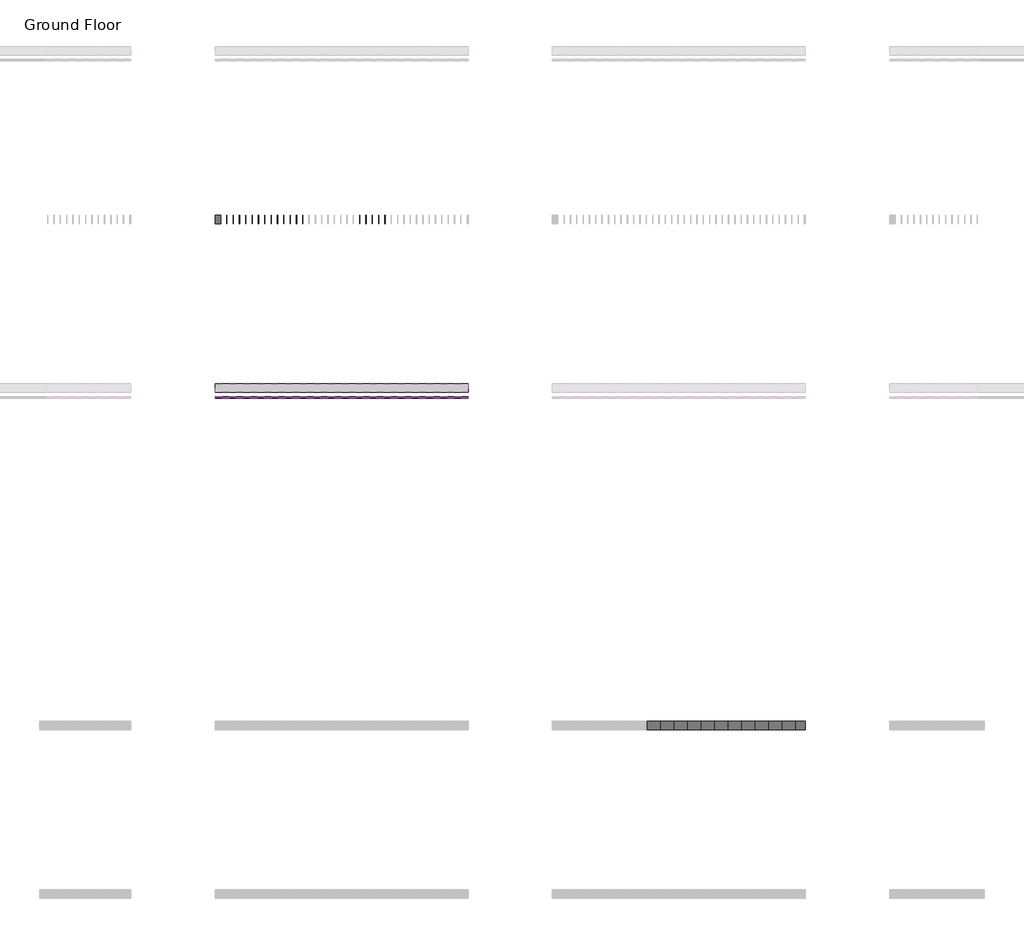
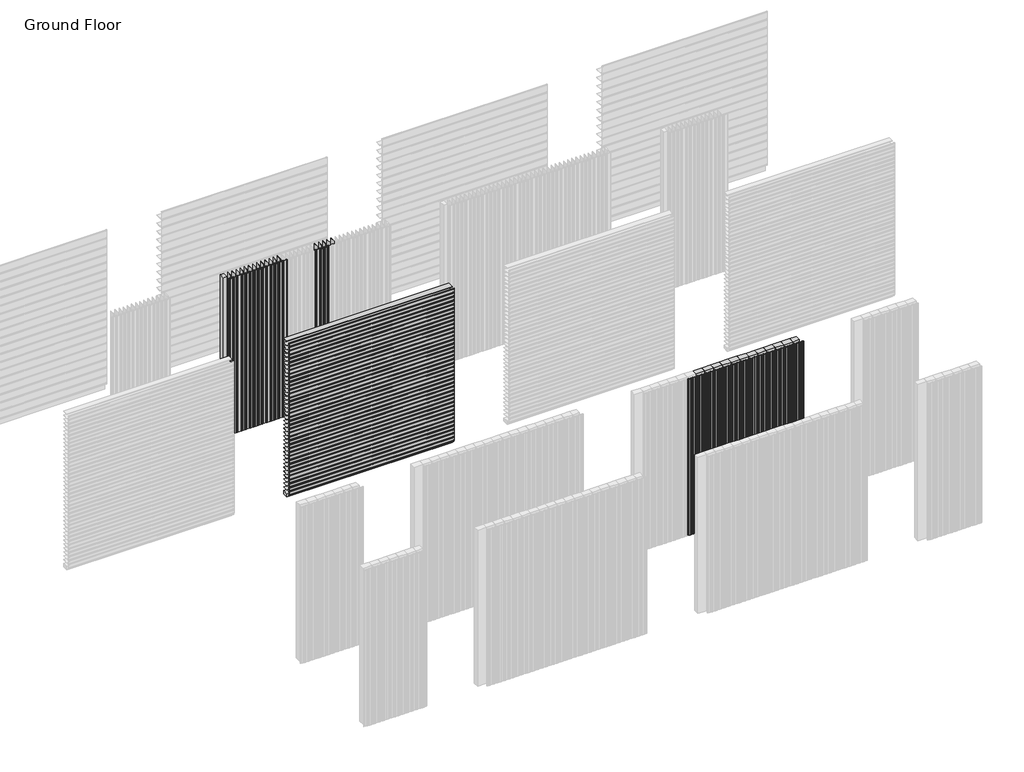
# One storey, part 32 of 350: 71 plates, 69 members.
"""IFC4 building model written with IfcOpenShell, lengths in millimetres."""

from ifc_helpers import new_model, si_unit, origin, place, context, project, spatial, transform, mapped, element, save
from components import rectangular_mullion_73ab8564, rectangular_mullion_894c3da7, empty_system_panel_empty_02c6fd44, empty_system_panel_empty_3b645525, empty_system_panel_empty_df7ddcff, empty_system_panel_empty_81cf2ed3, empty_system_panel_empty_a36746fc, empty_system_panel_empty_86793474, empty_system_panel_empty_27b459cb

model = new_model("IFC4")

# Units and contexts
model_context = context("Model", 3, world=origin())
ifc_project = project(units=[si_unit("LENGTHUNIT", "METRE", prefix="MILLI")], contexts=[model_context])

# Site, building, storey
site = spatial("IfcSite", under=ifc_project)
building = spatial("IfcBuilding", under=site)
storey = spatial("IfcBuildingStorey", under=building, Name="Ground Floor", Elevation=0.0)

# Members
placement = place(None, origin())
rectangular_mullion_shape = rectangular_mullion_73ab8564(model_context)
element("IfcMember", 1, ObjectType="Rectangular Mullion : Cladding_Aluminium_Modinex_AluSelekta_Castelation_ScreenClad_160Ultra_TasmanianOak", at=placement, inside=storey, context=model_context, shape_type="MappedRepresentation", body=[
    mapped(rectangular_mullion_shape, transform((45876.4361642, 8968.2978302, 0.0), x_axis=(1.0, 0.0, 0.0), y_axis=(0.0, -1.0, 0.0), z_axis=(0.0, 0.0, -1.0))),
])
element("IfcMember", 2, ObjectType="Rectangular Mullion : Cladding_Aluminium_Modinex_AluSelekta_Castelation_ScreenClad_160Ultra_TasmanianOak", at=placement, inside=storey, context=model_context, shape_type="MappedRepresentation", body=[
    mapped(rectangular_mullion_shape, transform((46036.4361642, 8968.2978302, 0.0), x_axis=(1.0, 0.0, 0.0), y_axis=(0.0, -1.0, 0.0), z_axis=(0.0, 0.0, -1.0))),
])
element("IfcMember", 3, ObjectType="Rectangular Mullion : Cladding_Aluminium_Modinex_AluSelekta_Castelation_ScreenClad_160Ultra_TasmanianOak", at=placement, inside=storey, context=model_context, shape_type="MappedRepresentation", body=[
    mapped(rectangular_mullion_shape, transform((46196.4361642, 8968.2978302, 0.0), x_axis=(1.0, 0.0, 0.0), y_axis=(0.0, -1.0, 0.0), z_axis=(0.0, 0.0, -1.0))),
])
element("IfcMember", 4, ObjectType="Rectangular Mullion : Cladding_Aluminium_Modinex_AluSelekta_Castelation_ScreenClad_160Ultra_TasmanianOak", at=placement, inside=storey, context=model_context, shape_type="MappedRepresentation", body=[
    mapped(rectangular_mullion_shape, transform((46356.4361642, 8968.2978302, 0.0), x_axis=(1.0, 0.0, 0.0), y_axis=(0.0, -1.0, 0.0), z_axis=(0.0, 0.0, -1.0))),
])
element("IfcMember", 5, ObjectType="Rectangular Mullion : Cladding_Aluminium_Modinex_AluSelekta_Castelation_ScreenClad_160Ultra_TasmanianOak", at=placement, inside=storey, context=model_context, shape_type="MappedRepresentation", body=[
    mapped(rectangular_mullion_shape, transform((46516.4361642, 8968.2978302, 0.0), x_axis=(1.0, 0.0, 0.0), y_axis=(0.0, -1.0, 0.0), z_axis=(0.0, 0.0, -1.0))),
])
element("IfcMember", 6, ObjectType="Rectangular Mullion : Cladding_Aluminium_Modinex_AluSelekta_Castelation_ScreenClad_160Ultra_TasmanianOak", at=placement, inside=storey, context=model_context, shape_type="MappedRepresentation", body=[
    mapped(rectangular_mullion_shape, transform((46676.4361642, 8968.2978302, 0.0), x_axis=(1.0, 0.0, 0.0), y_axis=(0.0, -1.0, 0.0), z_axis=(0.0, 0.0, -1.0))),
])
element("IfcMember", 7, ObjectType="Rectangular Mullion : Cladding_Aluminium_Modinex_AluSelekta_Castelation_ScreenClad_160Ultra_TasmanianOak", at=placement, inside=storey, context=model_context, shape_type="MappedRepresentation", body=[
    mapped(rectangular_mullion_shape, transform((46836.4361642, 8968.2978302, 0.0), x_axis=(1.0, 0.0, 0.0), y_axis=(0.0, -1.0, 0.0), z_axis=(0.0, 0.0, -1.0))),
])
element("IfcMember", 8, ObjectType="Rectangular Mullion : Cladding_Aluminium_Modinex_AluSelekta_Castelation_ScreenClad_160Ultra_TasmanianOak", at=placement, inside=storey, context=model_context, shape_type="MappedRepresentation", body=[
    mapped(rectangular_mullion_shape, transform((46996.4361642, 8968.2978302, 0.0), x_axis=(1.0, 0.0, 0.0), y_axis=(0.0, -1.0, 0.0), z_axis=(0.0, 0.0, -1.0))),
])
element("IfcMember", 9, ObjectType="Rectangular Mullion : Cladding_Aluminium_Modinex_AluSelekta_Castelation_ScreenClad_160Ultra_TasmanianOak", at=placement, inside=storey, context=model_context, shape_type="MappedRepresentation", body=[
    mapped(rectangular_mullion_shape, transform((47156.4361642, 8968.2978302, 0.0), x_axis=(1.0, 0.0, 0.0), y_axis=(0.0, -1.0, 0.0), z_axis=(0.0, 0.0, -1.0))),
])
element("IfcMember", 10, ObjectType="Rectangular Mullion : Cladding_Aluminium_Modinex_AluSelekta_Castelation_ScreenClad_160Ultra_TasmanianOak", at=placement, inside=storey, context=model_context, shape_type="MappedRepresentation", body=[
    mapped(rectangular_mullion_shape, transform((47316.4361642, 8968.2978302, 0.0), x_axis=(1.0, 0.0, 0.0), y_axis=(0.0, -1.0, 0.0), z_axis=(0.0, 0.0, -1.0))),
])
element("IfcMember", 11, ObjectType="Rectangular Mullion : Cladding_Aluminium_Modinex_AluSelekta_Castelation_ScreenClad_160Ultra_TasmanianOak", at=placement, inside=storey, context=model_context, shape_type="MappedRepresentation", body=[
    mapped(rectangular_mullion_shape, transform((47476.4361642, 8968.2978302, 0.0), x_axis=(1.0, 0.0, 0.0), y_axis=(0.0, -1.0, 0.0), z_axis=(0.0, 0.0, -1.0))),
])
element("IfcMember", 12, ObjectType="Rectangular Mullion : Cladding_Aluminium_Modinex_AluSelekta_Castelation_ScreenClad_160Ultra_TasmanianOak", at=placement, inside=storey, context=model_context, shape_type="MappedRepresentation", body=[
    mapped(rectangular_mullion_shape, transform((47636.4361642, 8968.2978302, 0.0), x_axis=(1.0, 0.0, 0.0), y_axis=(0.0, -1.0, 0.0), z_axis=(0.0, 0.0, -1.0))),
])
element("IfcMember", 13, ObjectType="Rectangular Mullion : Cladding_Aluminium_Modinex_AluSelekta_Castelation_ScreenClad_160Ultra_TasmanianOak", at=placement, inside=storey, context=model_context, shape_type="MappedRepresentation", body=[
    mapped(rectangular_mullion_shape, transform((47796.4361642, 8968.2978302, 0.0), x_axis=(1.0, 0.0, 0.0), y_axis=(0.0, -1.0, 0.0), z_axis=(0.0, 0.0, -1.0))),
])
rectangular_mullion_2_shape = rectangular_mullion_894c3da7(model_context)
element("IfcMember", 14, ObjectType="Rectangular Mullion : Cladding_Aluminium_Modinex_AluSelekta_Channel_75_SpottedGum", at=placement, inside=storey, context=model_context, shape_type="MappedRepresentation", body=[
    mapped(rectangular_mullion_2_shape, transform((43916.4361639, 12968.2978302, 75.0), x_axis=(0.0, 0.0, 1.0), y_axis=(0.0, -1.0, 0.0), z_axis=(1.0, 0.0, 0.0))),
])
element("IfcMember", 15, ObjectType="Rectangular Mullion : Cladding_Aluminium_Modinex_AluSelekta_Channel_75_SpottedGum", at=placement, inside=storey, context=model_context, shape_type="MappedRepresentation", body=[
    mapped(rectangular_mullion_2_shape, transform((43916.4361639, 12968.2978302, 150.0), x_axis=(0.0, 0.0, 1.0), y_axis=(0.0, -1.0, 0.0), z_axis=(1.0, 0.0, 0.0))),
])
element("IfcMember", 16, ObjectType="Rectangular Mullion : Cladding_Aluminium_Modinex_AluSelekta_Channel_75_SpottedGum", at=placement, inside=storey, context=model_context, shape_type="MappedRepresentation", body=[
    mapped(rectangular_mullion_2_shape, transform((43916.4361639, 12968.2978302, 225.0), x_axis=(0.0, 0.0, 1.0), y_axis=(0.0, -1.0, 0.0), z_axis=(1.0, 0.0, 0.0))),
])
element("IfcMember", 17, ObjectType="Rectangular Mullion : Cladding_Aluminium_Modinex_AluSelekta_Channel_75_SpottedGum", at=placement, inside=storey, context=model_context, shape_type="MappedRepresentation", body=[
    mapped(rectangular_mullion_2_shape, transform((43916.4361639, 12968.2978302, 300.0), x_axis=(0.0, 0.0, 1.0), y_axis=(0.0, -1.0, 0.0), z_axis=(1.0, 0.0, 0.0))),
])
element("IfcMember", 18, ObjectType="Rectangular Mullion : Cladding_Aluminium_Modinex_AluSelekta_Channel_75_SpottedGum", at=placement, inside=storey, context=model_context, shape_type="MappedRepresentation", body=[
    mapped(rectangular_mullion_2_shape, transform((43916.4361639, 12968.2978302, 375.0), x_axis=(0.0, 0.0, 1.0), y_axis=(0.0, -1.0, 0.0), z_axis=(1.0, 0.0, 0.0))),
])
element("IfcMember", 19, ObjectType="Rectangular Mullion : Cladding_Aluminium_Modinex_AluSelekta_Channel_75_SpottedGum", at=placement, inside=storey, context=model_context, shape_type="MappedRepresentation", body=[
    mapped(rectangular_mullion_2_shape, transform((43916.4361639, 12968.2978302, 450.0), x_axis=(0.0, 0.0, 1.0), y_axis=(0.0, -1.0, 0.0), z_axis=(1.0, 0.0, 0.0))),
])
element("IfcMember", 20, ObjectType="Rectangular Mullion : Cladding_Aluminium_Modinex_AluSelekta_Channel_75_SpottedGum", at=placement, inside=storey, context=model_context, shape_type="MappedRepresentation", body=[
    mapped(rectangular_mullion_2_shape, transform((43916.4361639, 12968.2978302, 525.0), x_axis=(0.0, 0.0, 1.0), y_axis=(0.0, -1.0, 0.0), z_axis=(1.0, 0.0, 0.0))),
])
element("IfcMember", 21, ObjectType="Rectangular Mullion : Cladding_Aluminium_Modinex_AluSelekta_Channel_75_SpottedGum", at=placement, inside=storey, context=model_context, shape_type="MappedRepresentation", body=[
    mapped(rectangular_mullion_2_shape, transform((43916.4361639, 12968.2978302, 600.0), x_axis=(0.0, 0.0, 1.0), y_axis=(0.0, -1.0, 0.0), z_axis=(1.0, 0.0, 0.0))),
])
element("IfcMember", 22, ObjectType="Rectangular Mullion : Cladding_Aluminium_Modinex_AluSelekta_Channel_75_SpottedGum", at=placement, inside=storey, context=model_context, shape_type="MappedRepresentation", body=[
    mapped(rectangular_mullion_2_shape, transform((43916.4361639, 12968.2978302, 675.0), x_axis=(0.0, 0.0, 1.0), y_axis=(0.0, -1.0, 0.0), z_axis=(1.0, 0.0, 0.0))),
])
element("IfcMember", 23, ObjectType="Rectangular Mullion : Cladding_Aluminium_Modinex_AluSelekta_Channel_75_SpottedGum", at=placement, inside=storey, context=model_context, shape_type="MappedRepresentation", body=[
    mapped(rectangular_mullion_2_shape, transform((43916.4361639, 12968.2978302, 750.0), x_axis=(0.0, 0.0, 1.0), y_axis=(0.0, -1.0, 0.0), z_axis=(1.0, 0.0, 0.0))),
])
element("IfcMember", 24, ObjectType="Rectangular Mullion : Cladding_Aluminium_Modinex_AluSelekta_Channel_75_SpottedGum", at=placement, inside=storey, context=model_context, shape_type="MappedRepresentation", body=[
    mapped(rectangular_mullion_2_shape, transform((43916.4361639, 12968.2978302, 825.0), x_axis=(0.0, 0.0, 1.0), y_axis=(0.0, -1.0, 0.0), z_axis=(1.0, 0.0, 0.0))),
])
element("IfcMember", 25, ObjectType="Rectangular Mullion : Cladding_Aluminium_Modinex_AluSelekta_Channel_75_SpottedGum", at=placement, inside=storey, context=model_context, shape_type="MappedRepresentation", body=[
    mapped(rectangular_mullion_2_shape, transform((43916.4361639, 12968.2978302, 900.0), x_axis=(0.0, 0.0, 1.0), y_axis=(0.0, -1.0, 0.0), z_axis=(1.0, 0.0, 0.0))),
])
element("IfcMember", 26, ObjectType="Rectangular Mullion : Cladding_Aluminium_Modinex_AluSelekta_Channel_75_SpottedGum", at=placement, inside=storey, context=model_context, shape_type="MappedRepresentation", body=[
    mapped(rectangular_mullion_2_shape, transform((43916.4361639, 12968.2978302, 975.0), x_axis=(0.0, 0.0, 1.0), y_axis=(0.0, -1.0, 0.0), z_axis=(1.0, 0.0, 0.0))),
])
element("IfcMember", 27, ObjectType="Rectangular Mullion : Cladding_Aluminium_Modinex_AluSelekta_Channel_75_SpottedGum", at=placement, inside=storey, context=model_context, shape_type="MappedRepresentation", body=[
    mapped(rectangular_mullion_2_shape, transform((43916.4361639, 12968.2978302, 1050.0), x_axis=(0.0, 0.0, 1.0), y_axis=(0.0, -1.0, 0.0), z_axis=(1.0, 0.0, 0.0))),
])
element("IfcMember", 28, ObjectType="Rectangular Mullion : Cladding_Aluminium_Modinex_AluSelekta_Channel_75_SpottedGum", at=placement, inside=storey, context=model_context, shape_type="MappedRepresentation", body=[
    mapped(rectangular_mullion_2_shape, transform((43916.4361639, 12968.2978302, 1125.0), x_axis=(0.0, 0.0, 1.0), y_axis=(0.0, -1.0, 0.0), z_axis=(1.0, 0.0, 0.0))),
])
element("IfcMember", 29, ObjectType="Rectangular Mullion : Cladding_Aluminium_Modinex_AluSelekta_Channel_75_SpottedGum", at=placement, inside=storey, context=model_context, shape_type="MappedRepresentation", body=[
    mapped(rectangular_mullion_2_shape, transform((43916.4361639, 12968.2978302, 1200.0), x_axis=(0.0, 0.0, 1.0), y_axis=(0.0, -1.0, 0.0), z_axis=(1.0, 0.0, 0.0))),
])
element("IfcMember", 30, ObjectType="Rectangular Mullion : Cladding_Aluminium_Modinex_AluSelekta_Channel_75_SpottedGum", at=placement, inside=storey, context=model_context, shape_type="MappedRepresentation", body=[
    mapped(rectangular_mullion_2_shape, transform((43916.4361639, 12968.2978302, 1275.0), x_axis=(0.0, 0.0, 1.0), y_axis=(0.0, -1.0, 0.0), z_axis=(1.0, 0.0, 0.0))),
])
element("IfcMember", 31, ObjectType="Rectangular Mullion : Cladding_Aluminium_Modinex_AluSelekta_Channel_75_SpottedGum", at=placement, inside=storey, context=model_context, shape_type="MappedRepresentation", body=[
    mapped(rectangular_mullion_2_shape, transform((43916.4361639, 12968.2978302, 1350.0), x_axis=(0.0, 0.0, 1.0), y_axis=(0.0, -1.0, 0.0), z_axis=(1.0, 0.0, 0.0))),
])
element("IfcMember", 32, ObjectType="Rectangular Mullion : Cladding_Aluminium_Modinex_AluSelekta_Channel_75_SpottedGum", at=placement, inside=storey, context=model_context, shape_type="MappedRepresentation", body=[
    mapped(rectangular_mullion_2_shape, transform((43916.4361639, 12968.2978302, 1425.0), x_axis=(0.0, 0.0, 1.0), y_axis=(0.0, -1.0, 0.0), z_axis=(1.0, 0.0, 0.0))),
])
element("IfcMember", 33, ObjectType="Rectangular Mullion : Cladding_Aluminium_Modinex_AluSelekta_Channel_75_SpottedGum", at=placement, inside=storey, context=model_context, shape_type="MappedRepresentation", body=[
    mapped(rectangular_mullion_2_shape, transform((43916.4361639, 12968.2978302, 1500.0), x_axis=(0.0, 0.0, 1.0), y_axis=(0.0, -1.0, 0.0), z_axis=(1.0, 0.0, 0.0))),
])
element("IfcMember", 34, ObjectType="Rectangular Mullion : Cladding_Aluminium_Modinex_AluSelekta_Channel_75_SpottedGum", at=placement, inside=storey, context=model_context, shape_type="MappedRepresentation", body=[
    mapped(rectangular_mullion_2_shape, transform((43916.4361639, 12968.2978302, 1575.0), x_axis=(0.0, 0.0, 1.0), y_axis=(0.0, -1.0, 0.0), z_axis=(1.0, 0.0, 0.0))),
])
element("IfcMember", 35, ObjectType="Rectangular Mullion : Cladding_Aluminium_Modinex_AluSelekta_Channel_75_SpottedGum", at=placement, inside=storey, context=model_context, shape_type="MappedRepresentation", body=[
    mapped(rectangular_mullion_2_shape, transform((43916.4361639, 12968.2978302, 1650.0), x_axis=(0.0, 0.0, 1.0), y_axis=(0.0, -1.0, 0.0), z_axis=(1.0, 0.0, 0.0))),
])
element("IfcMember", 36, ObjectType="Rectangular Mullion : Cladding_Aluminium_Modinex_AluSelekta_Channel_75_SpottedGum", at=placement, inside=storey, context=model_context, shape_type="MappedRepresentation", body=[
    mapped(rectangular_mullion_2_shape, transform((43916.4361639, 12968.2978302, 1725.0), x_axis=(0.0, 0.0, 1.0), y_axis=(0.0, -1.0, 0.0), z_axis=(1.0, 0.0, 0.0))),
])
element("IfcMember", 37, ObjectType="Rectangular Mullion : Cladding_Aluminium_Modinex_AluSelekta_Channel_75_SpottedGum", at=placement, inside=storey, context=model_context, shape_type="MappedRepresentation", body=[
    mapped(rectangular_mullion_2_shape, transform((43916.4361639, 12968.2978302, 1800.0), x_axis=(0.0, 0.0, 1.0), y_axis=(0.0, -1.0, 0.0), z_axis=(1.0, 0.0, 0.0))),
])
element("IfcMember", 38, ObjectType="Rectangular Mullion : Cladding_Aluminium_Modinex_AluSelekta_Channel_75_SpottedGum", at=placement, inside=storey, context=model_context, shape_type="MappedRepresentation", body=[
    mapped(rectangular_mullion_2_shape, transform((43916.4361639, 12968.2978302, 1875.0), x_axis=(0.0, 0.0, 1.0), y_axis=(0.0, -1.0, 0.0), z_axis=(1.0, 0.0, 0.0))),
])
element("IfcMember", 39, ObjectType="Rectangular Mullion : Cladding_Aluminium_Modinex_AluSelekta_Channel_75_SpottedGum", at=placement, inside=storey, context=model_context, shape_type="MappedRepresentation", body=[
    mapped(rectangular_mullion_2_shape, transform((43916.4361639, 12968.2978302, 1950.0), x_axis=(0.0, 0.0, 1.0), y_axis=(0.0, -1.0, 0.0), z_axis=(1.0, 0.0, 0.0))),
])
element("IfcMember", 40, ObjectType="Rectangular Mullion : Cladding_Aluminium_Modinex_AluSelekta_Channel_75_SpottedGum", at=placement, inside=storey, context=model_context, shape_type="MappedRepresentation", body=[
    mapped(rectangular_mullion_2_shape, transform((43916.4361639, 12968.2978302, 2025.0), x_axis=(0.0, 0.0, 1.0), y_axis=(0.0, -1.0, 0.0), z_axis=(1.0, 0.0, 0.0))),
])
element("IfcMember", 41, ObjectType="Rectangular Mullion : Cladding_Aluminium_Modinex_AluSelekta_Channel_75_SpottedGum", at=placement, inside=storey, context=model_context, shape_type="MappedRepresentation", body=[
    mapped(rectangular_mullion_2_shape, transform((43916.4361639, 12968.2978302, 2100.0), x_axis=(0.0, 0.0, 1.0), y_axis=(0.0, -1.0, 0.0), z_axis=(1.0, 0.0, 0.0))),
])
element("IfcMember", 42, ObjectType="Rectangular Mullion : Cladding_Aluminium_Modinex_AluSelekta_Channel_75_SpottedGum", at=placement, inside=storey, context=model_context, shape_type="MappedRepresentation", body=[
    mapped(rectangular_mullion_2_shape, transform((43916.4361639, 12968.2978302, 2175.0), x_axis=(0.0, 0.0, 1.0), y_axis=(0.0, -1.0, 0.0), z_axis=(1.0, 0.0, 0.0))),
])
element("IfcMember", 43, ObjectType="Rectangular Mullion : Cladding_Aluminium_Modinex_AluSelekta_Channel_75_SpottedGum", at=placement, inside=storey, context=model_context, shape_type="MappedRepresentation", body=[
    mapped(rectangular_mullion_2_shape, transform((43916.4361639, 12968.2978302, 2250.0), x_axis=(0.0, 0.0, 1.0), y_axis=(0.0, -1.0, 0.0), z_axis=(1.0, 0.0, 0.0))),
])
element("IfcMember", 44, ObjectType="Rectangular Mullion : Cladding_Aluminium_Modinex_AluSelekta_Channel_75_SpottedGum", at=placement, inside=storey, context=model_context, shape_type="MappedRepresentation", body=[
    mapped(rectangular_mullion_2_shape, transform((43916.4361639, 12968.2978302, 2325.0), x_axis=(0.0, 0.0, 1.0), y_axis=(0.0, -1.0, 0.0), z_axis=(1.0, 0.0, 0.0))),
])
element("IfcMember", 45, ObjectType="Rectangular Mullion : Cladding_Aluminium_Modinex_AluSelekta_Channel_75_SpottedGum", at=placement, inside=storey, context=model_context, shape_type="MappedRepresentation", body=[
    mapped(rectangular_mullion_2_shape, transform((43916.4361639, 12968.2978302, 2400.0), x_axis=(0.0, 0.0, 1.0), y_axis=(0.0, -1.0, 0.0), z_axis=(1.0, 0.0, 0.0))),
])
element("IfcMember", 46, ObjectType="Rectangular Mullion : Cladding_Aluminium_Modinex_AluSelekta_Channel_75_SpottedGum", at=placement, inside=storey, context=model_context, shape_type="MappedRepresentation", body=[
    mapped(rectangular_mullion_2_shape, transform((43916.4361639, 12968.2978302, 2475.0), x_axis=(0.0, 0.0, 1.0), y_axis=(0.0, -1.0, 0.0), z_axis=(1.0, 0.0, 0.0))),
])
element("IfcMember", 47, ObjectType="Rectangular Mullion : Cladding_Aluminium_Modinex_AluSelekta_Channel_75_SpottedGum", at=placement, inside=storey, context=model_context, shape_type="MappedRepresentation", body=[
    mapped(rectangular_mullion_2_shape, transform((43916.4361639, 12968.2978302, 2550.0), x_axis=(0.0, 0.0, 1.0), y_axis=(0.0, -1.0, 0.0), z_axis=(1.0, 0.0, 0.0))),
])
element("IfcMember", 48, ObjectType="Rectangular Mullion : Cladding_Aluminium_Modinex_AluSelekta_Channel_75_SpottedGum", at=placement, inside=storey, context=model_context, shape_type="MappedRepresentation", body=[
    mapped(rectangular_mullion_2_shape, transform((43916.4361639, 12968.2978302, 2625.0), x_axis=(0.0, 0.0, 1.0), y_axis=(0.0, -1.0, 0.0), z_axis=(1.0, 0.0, 0.0))),
])
element("IfcMember", 49, ObjectType="Rectangular Mullion : Cladding_Aluminium_Modinex_AluSelekta_Channel_75_SpottedGum", at=placement, inside=storey, context=model_context, shape_type="MappedRepresentation", body=[
    mapped(rectangular_mullion_2_shape, transform((43916.4361639, 12968.2978302, 2700.0), x_axis=(0.0, 0.0, 1.0), y_axis=(0.0, -1.0, 0.0), z_axis=(1.0, 0.0, 0.0))),
])
element("IfcMember", 50, ObjectType="Rectangular Mullion : Cladding_Aluminium_Modinex_AluSelekta_Channel_75_SpottedGum", at=placement, inside=storey, context=model_context, shape_type="MappedRepresentation", body=[
    mapped(rectangular_mullion_2_shape, transform((43916.4361639, 12968.2978302, 2775.0), x_axis=(0.0, 0.0, 1.0), y_axis=(0.0, -1.0, 0.0), z_axis=(1.0, 0.0, 0.0))),
])
element("IfcMember", 51, ObjectType="Rectangular Mullion : Cladding_Aluminium_Modinex_AluSelekta_Channel_75_SpottedGum", at=placement, inside=storey, context=model_context, shape_type="MappedRepresentation", body=[
    mapped(rectangular_mullion_2_shape, transform((43916.4361639, 12968.2978302, 2850.0), x_axis=(0.0, 0.0, 1.0), y_axis=(0.0, -1.0, 0.0), z_axis=(1.0, 0.0, 0.0))),
])
element("IfcMember", 52, ObjectType="Rectangular Mullion : Cladding_Aluminium_Modinex_AluSelekta_Channel_75_SpottedGum", at=placement, inside=storey, context=model_context, shape_type="MappedRepresentation", body=[
    mapped(rectangular_mullion_2_shape, transform((43916.4361639, 12968.2978302, 2925.0), x_axis=(0.0, 0.0, 1.0), y_axis=(0.0, -1.0, 0.0), z_axis=(1.0, 0.0, 0.0))),
])
element("IfcMember", 53, ObjectType="Rectangular Mullion : Cladding_Aluminium_Modinex_AluSelekta_Channel_75_SpottedGum", at=placement, inside=storey, context=model_context, shape_type="MappedRepresentation", body=[
    mapped(rectangular_mullion_2_shape, transform((42566.4361642, 14968.2978302, 0.0), x_axis=(1.0, 0.0, 0.0), y_axis=(0.0, -1.0, 0.0), z_axis=(0.0, 0.0, -1.0))),
])
element("IfcMember", 54, ObjectType="Rectangular Mullion : Cladding_Aluminium_Modinex_AluSelekta_Channel_75_SpottedGum", at=placement, inside=storey, context=model_context, shape_type="MappedRepresentation", body=[
    mapped(rectangular_mullion_2_shape, transform((42641.4361642, 14968.2978302, 0.0), x_axis=(1.0, 0.0, 0.0), y_axis=(0.0, -1.0, 0.0), z_axis=(0.0, 0.0, -1.0))),
])
element("IfcMember", 55, ObjectType="Rectangular Mullion : Cladding_Aluminium_Modinex_AluSelekta_Channel_75_SpottedGum", at=placement, inside=storey, context=model_context, shape_type="MappedRepresentation", body=[
    mapped(rectangular_mullion_2_shape, transform((42716.4361642, 14968.2978302, 0.0), x_axis=(1.0, 0.0, 0.0), y_axis=(0.0, -1.0, 0.0), z_axis=(0.0, 0.0, -1.0))),
])
element("IfcMember", 56, ObjectType="Rectangular Mullion : Cladding_Aluminium_Modinex_AluSelekta_Channel_75_SpottedGum", at=placement, inside=storey, context=model_context, shape_type="MappedRepresentation", body=[
    mapped(rectangular_mullion_2_shape, transform((41966.4361642, 14968.2978302, 0.0), x_axis=(1.0, 0.0, 0.0), y_axis=(0.0, -1.0, 0.0), z_axis=(0.0, 0.0, -1.0))),
])
element("IfcMember", 57, ObjectType="Rectangular Mullion : Cladding_Aluminium_Modinex_AluSelekta_Channel_75_SpottedGum", at=placement, inside=storey, context=model_context, shape_type="MappedRepresentation", body=[
    mapped(rectangular_mullion_2_shape, transform((41891.4361642, 14968.2978302, 0.0), x_axis=(1.0, 0.0, 0.0), y_axis=(0.0, -1.0, 0.0), z_axis=(0.0, 0.0, -1.0))),
])
element("IfcMember", 58, ObjectType="Rectangular Mullion : Cladding_Aluminium_Modinex_AluSelekta_Channel_75_SpottedGum", at=placement, inside=storey, context=model_context, shape_type="MappedRepresentation", body=[
    mapped(rectangular_mullion_2_shape, transform((41816.4361642, 14968.2978302, 0.0), x_axis=(1.0, 0.0, 0.0), y_axis=(0.0, -1.0, 0.0), z_axis=(0.0, 0.0, -1.0))),
])
element("IfcMember", 59, ObjectType="Rectangular Mullion : Cladding_Aluminium_Modinex_AluSelekta_Channel_75_SpottedGum", at=placement, inside=storey, context=model_context, shape_type="MappedRepresentation", body=[
    mapped(rectangular_mullion_2_shape, transform((41741.4361642, 14968.2978302, 0.0), x_axis=(1.0, 0.0, 0.0), y_axis=(0.0, -1.0, 0.0), z_axis=(0.0, 0.0, -1.0))),
])
element("IfcMember", 60, ObjectType="Rectangular Mullion : Cladding_Aluminium_Modinex_AluSelekta_Channel_75_SpottedGum", at=placement, inside=storey, context=model_context, shape_type="MappedRepresentation", body=[
    mapped(rectangular_mullion_2_shape, transform((41666.4361642, 14968.2978302, 0.0), x_axis=(1.0, 0.0, 0.0), y_axis=(0.0, -1.0, 0.0), z_axis=(0.0, 0.0, -1.0))),
])
element("IfcMember", 61, ObjectType="Rectangular Mullion : Cladding_Aluminium_Modinex_AluSelekta_Channel_75_SpottedGum", at=placement, inside=storey, context=model_context, shape_type="MappedRepresentation", body=[
    mapped(rectangular_mullion_2_shape, transform((41591.4361642, 14968.2978302, 0.0), x_axis=(1.0, 0.0, 0.0), y_axis=(0.0, -1.0, 0.0), z_axis=(0.0, 0.0, -1.0))),
])
element("IfcMember", 62, ObjectType="Rectangular Mullion : Cladding_Aluminium_Modinex_AluSelekta_Channel_75_SpottedGum", at=placement, inside=storey, context=model_context, shape_type="MappedRepresentation", body=[
    mapped(rectangular_mullion_2_shape, transform((41516.4361642, 14968.2978302, 0.0), x_axis=(1.0, 0.0, 0.0), y_axis=(0.0, -1.0, 0.0), z_axis=(0.0, 0.0, -1.0))),
])
element("IfcMember", 63, ObjectType="Rectangular Mullion : Cladding_Aluminium_Modinex_AluSelekta_Channel_75_SpottedGum", at=placement, inside=storey, context=model_context, shape_type="MappedRepresentation", body=[
    mapped(rectangular_mullion_2_shape, transform((41441.4361642, 14968.2978302, 0.0), x_axis=(1.0, 0.0, 0.0), y_axis=(0.0, -1.0, 0.0), z_axis=(0.0, 0.0, -1.0))),
])
element("IfcMember", 64, ObjectType="Rectangular Mullion : Cladding_Aluminium_Modinex_AluSelekta_Channel_75_SpottedGum", at=placement, inside=storey, context=model_context, shape_type="MappedRepresentation", body=[
    mapped(rectangular_mullion_2_shape, transform((41366.4361642, 14968.2978302, 0.0), x_axis=(1.0, 0.0, 0.0), y_axis=(0.0, -1.0, 0.0), z_axis=(0.0, 0.0, -1.0))),
])
element("IfcMember", 65, ObjectType="Rectangular Mullion : Cladding_Aluminium_Modinex_AluSelekta_Channel_75_SpottedGum", at=placement, inside=storey, context=model_context, shape_type="MappedRepresentation", body=[
    mapped(rectangular_mullion_2_shape, transform((41291.4361642, 14968.2978302, 0.0), x_axis=(1.0, 0.0, 0.0), y_axis=(0.0, -1.0, 0.0), z_axis=(0.0, 0.0, -1.0))),
])
element("IfcMember", 66, ObjectType="Rectangular Mullion : Cladding_Aluminium_Modinex_AluSelekta_Channel_75_SpottedGum", at=placement, inside=storey, context=model_context, shape_type="MappedRepresentation", body=[
    mapped(rectangular_mullion_2_shape, transform((41216.4361642, 14968.2978302, 0.0), x_axis=(1.0, 0.0, 0.0), y_axis=(0.0, -1.0, 0.0), z_axis=(0.0, 0.0, -1.0))),
])
element("IfcMember", 67, ObjectType="Rectangular Mullion : Cladding_Aluminium_Modinex_AluSelekta_Channel_75_SpottedGum", at=placement, inside=storey, context=model_context, shape_type="MappedRepresentation", body=[
    mapped(rectangular_mullion_2_shape, transform((41141.4361642, 14968.2978302, 0.0), x_axis=(1.0, 0.0, 0.0), y_axis=(0.0, -1.0, 0.0), z_axis=(0.0, 0.0, -1.0))),
])
element("IfcMember", 68, ObjectType="Rectangular Mullion : Cladding_Aluminium_Modinex_AluSelekta_Channel_75_SpottedGum", at=placement, inside=storey, context=model_context, shape_type="MappedRepresentation", body=[
    mapped(rectangular_mullion_2_shape, transform((41066.4361642, 14968.2978302, 0.0), x_axis=(1.0, 0.0, 0.0), y_axis=(0.0, -1.0, 0.0), z_axis=(0.0, 0.0, -1.0))),
])
element("IfcMember", 69, ObjectType="Rectangular Mullion : Cladding_Aluminium_Modinex_AluSelekta_Channel_75_SpottedGum", at=placement, inside=storey, context=model_context, shape_type="MappedRepresentation", body=[
    mapped(rectangular_mullion_2_shape, transform((40991.4361642, 14968.2978302, 0.0), x_axis=(1.0, 0.0, 0.0), y_axis=(0.0, -1.0, 0.0), z_axis=(0.0, 0.0, -1.0))),
])

# Plates
empty_system_panel_empty_shape = empty_system_panel_empty_02c6fd44(model_context)
element("IfcPlate", 70, ObjectType="Empty System Panel : Empty", at=placement, inside=storey, context=model_context, shape_type="MappedRepresentation", body=[
    mapped(empty_system_panel_empty_shape, transform((42416.4361639, 12968.2978302, 137.2580963), x_axis=(1.0, 0.0, 0.0), y_axis=(0.0, 1.0, 0.0), z_axis=(0.0, 0.0, 1.0))),
])
element("IfcPlate", 71, ObjectType="Empty System Panel : Empty", at=placement, inside=storey, context=model_context, shape_type="MappedRepresentation", body=[
    mapped(empty_system_panel_empty_shape, transform((42416.4361639, 12968.2978302, 212.2580963), x_axis=(1.0, 0.0, 0.0), y_axis=(0.0, 1.0, 0.0), z_axis=(0.0, 0.0, 1.0))),
])
element("IfcPlate", 72, ObjectType="Empty System Panel : Empty", at=placement, inside=storey, context=model_context, shape_type="MappedRepresentation", body=[
    mapped(empty_system_panel_empty_shape, transform((42416.4361639, 12968.2978302, 287.2580963), x_axis=(1.0, 0.0, 0.0), y_axis=(0.0, 1.0, 0.0), z_axis=(0.0, 0.0, 1.0))),
])
element("IfcPlate", 73, ObjectType="Empty System Panel : Empty", at=placement, inside=storey, context=model_context, shape_type="MappedRepresentation", body=[
    mapped(empty_system_panel_empty_shape, transform((42416.4361639, 12968.2978302, 362.2580963), x_axis=(1.0, 0.0, 0.0), y_axis=(0.0, 1.0, 0.0), z_axis=(0.0, 0.0, 1.0))),
])
element("IfcPlate", 74, ObjectType="Empty System Panel : Empty", at=placement, inside=storey, context=model_context, shape_type="MappedRepresentation", body=[
    mapped(empty_system_panel_empty_shape, transform((42416.4361639, 12968.2978302, 437.2580963), x_axis=(1.0, 0.0, 0.0), y_axis=(0.0, 1.0, 0.0), z_axis=(0.0, 0.0, 1.0))),
])
element("IfcPlate", 75, ObjectType="Empty System Panel : Empty", at=placement, inside=storey, context=model_context, shape_type="MappedRepresentation", body=[
    mapped(empty_system_panel_empty_shape, transform((42416.4361639, 12968.2978302, 512.2580963), x_axis=(1.0, 0.0, 0.0), y_axis=(0.0, 1.0, 0.0), z_axis=(0.0, 0.0, 1.0))),
])
element("IfcPlate", 76, ObjectType="Empty System Panel : Empty", at=placement, inside=storey, context=model_context, shape_type="MappedRepresentation", body=[
    mapped(empty_system_panel_empty_shape, transform((42416.4361639, 12968.2978302, 587.2580963), x_axis=(1.0, 0.0, 0.0), y_axis=(0.0, 1.0, 0.0), z_axis=(0.0, 0.0, 1.0))),
])
element("IfcPlate", 77, ObjectType="Empty System Panel : Empty", at=placement, inside=storey, context=model_context, shape_type="MappedRepresentation", body=[
    mapped(empty_system_panel_empty_shape, transform((42416.4361639, 12968.2978302, 662.2580963), x_axis=(1.0, 0.0, 0.0), y_axis=(0.0, 1.0, 0.0), z_axis=(0.0, 0.0, 1.0))),
])
element("IfcPlate", 78, ObjectType="Empty System Panel : Empty", at=placement, inside=storey, context=model_context, shape_type="MappedRepresentation", body=[
    mapped(empty_system_panel_empty_shape, transform((42416.4361639, 12968.2978302, 737.2580963), x_axis=(1.0, 0.0, 0.0), y_axis=(0.0, 1.0, 0.0), z_axis=(0.0, 0.0, 1.0))),
])
element("IfcPlate", 79, ObjectType="Empty System Panel : Empty", at=placement, inside=storey, context=model_context, shape_type="MappedRepresentation", body=[
    mapped(empty_system_panel_empty_shape, transform((42416.4361639, 12968.2978302, 812.2580963), x_axis=(1.0, 0.0, 0.0), y_axis=(0.0, 1.0, 0.0), z_axis=(0.0, 0.0, 1.0))),
])
element("IfcPlate", 80, ObjectType="Empty System Panel : Empty", at=placement, inside=storey, context=model_context, shape_type="MappedRepresentation", body=[
    mapped(empty_system_panel_empty_shape, transform((42416.4361639, 12968.2978302, 887.2580963), x_axis=(1.0, 0.0, 0.0), y_axis=(0.0, 1.0, 0.0), z_axis=(0.0, 0.0, 1.0))),
])
element("IfcPlate", 81, ObjectType="Empty System Panel : Empty", at=placement, inside=storey, context=model_context, shape_type="MappedRepresentation", body=[
    mapped(empty_system_panel_empty_shape, transform((42416.4361639, 12968.2978302, 962.2580963), x_axis=(1.0, 0.0, 0.0), y_axis=(0.0, 1.0, 0.0), z_axis=(0.0, 0.0, 1.0))),
])
element("IfcPlate", 82, ObjectType="Empty System Panel : Empty", at=placement, inside=storey, context=model_context, shape_type="MappedRepresentation", body=[
    mapped(empty_system_panel_empty_shape, transform((42416.4361639, 12968.2978302, 1037.2580963), x_axis=(1.0, 0.0, 0.0), y_axis=(0.0, 1.0, 0.0), z_axis=(0.0, 0.0, 1.0))),
])
element("IfcPlate", 83, ObjectType="Empty System Panel : Empty", at=placement, inside=storey, context=model_context, shape_type="MappedRepresentation", body=[
    mapped(empty_system_panel_empty_shape, transform((42416.4361639, 12968.2978302, 1112.2580963), x_axis=(1.0, 0.0, 0.0), y_axis=(0.0, 1.0, 0.0), z_axis=(0.0, 0.0, 1.0))),
])
element("IfcPlate", 84, ObjectType="Empty System Panel : Empty", at=placement, inside=storey, context=model_context, shape_type="MappedRepresentation", body=[
    mapped(empty_system_panel_empty_shape, transform((42416.4361639, 12968.2978302, 1187.2580963), x_axis=(1.0, 0.0, 0.0), y_axis=(0.0, 1.0, 0.0), z_axis=(0.0, 0.0, 1.0))),
])
element("IfcPlate", 85, ObjectType="Empty System Panel : Empty", at=placement, inside=storey, context=model_context, shape_type="MappedRepresentation", body=[
    mapped(empty_system_panel_empty_shape, transform((42416.4361639, 12968.2978302, 1262.2580963), x_axis=(1.0, 0.0, 0.0), y_axis=(0.0, 1.0, 0.0), z_axis=(0.0, 0.0, 1.0))),
])
element("IfcPlate", 86, ObjectType="Empty System Panel : Empty", at=placement, inside=storey, context=model_context, shape_type="MappedRepresentation", body=[
    mapped(empty_system_panel_empty_shape, transform((42416.4361639, 12968.2978302, 1337.2580963), x_axis=(1.0, 0.0, 0.0), y_axis=(0.0, 1.0, 0.0), z_axis=(0.0, 0.0, 1.0))),
])
element("IfcPlate", 87, ObjectType="Empty System Panel : Empty", at=placement, inside=storey, context=model_context, shape_type="MappedRepresentation", body=[
    mapped(empty_system_panel_empty_shape, transform((42416.4361639, 12968.2978302, 1412.2580963), x_axis=(1.0, 0.0, 0.0), y_axis=(0.0, 1.0, 0.0), z_axis=(0.0, 0.0, 1.0))),
])
element("IfcPlate", 88, ObjectType="Empty System Panel : Empty", at=placement, inside=storey, context=model_context, shape_type="MappedRepresentation", body=[
    mapped(empty_system_panel_empty_shape, transform((42416.4361639, 12968.2978302, 1487.2580963), x_axis=(1.0, 0.0, 0.0), y_axis=(0.0, 1.0, 0.0), z_axis=(0.0, 0.0, 1.0))),
])
element("IfcPlate", 89, ObjectType="Empty System Panel : Empty", at=placement, inside=storey, context=model_context, shape_type="MappedRepresentation", body=[
    mapped(empty_system_panel_empty_shape, transform((42416.4361639, 12968.2978302, 1562.2580963), x_axis=(1.0, 0.0, 0.0), y_axis=(0.0, 1.0, 0.0), z_axis=(0.0, 0.0, 1.0))),
])
element("IfcPlate", 90, ObjectType="Empty System Panel : Empty", at=placement, inside=storey, context=model_context, shape_type="MappedRepresentation", body=[
    mapped(empty_system_panel_empty_shape, transform((42416.4361639, 12968.2978302, 1637.2580963), x_axis=(1.0, 0.0, 0.0), y_axis=(0.0, 1.0, 0.0), z_axis=(0.0, 0.0, 1.0))),
])
element("IfcPlate", 91, ObjectType="Empty System Panel : Empty", at=placement, inside=storey, context=model_context, shape_type="MappedRepresentation", body=[
    mapped(empty_system_panel_empty_shape, transform((42416.4361639, 12968.2978302, 1712.2580963), x_axis=(1.0, 0.0, 0.0), y_axis=(0.0, 1.0, 0.0), z_axis=(0.0, 0.0, 1.0))),
])
element("IfcPlate", 92, ObjectType="Empty System Panel : Empty", at=placement, inside=storey, context=model_context, shape_type="MappedRepresentation", body=[
    mapped(empty_system_panel_empty_shape, transform((42416.4361639, 12968.2978302, 1787.2580963), x_axis=(1.0, 0.0, 0.0), y_axis=(0.0, 1.0, 0.0), z_axis=(0.0, 0.0, 1.0))),
])
element("IfcPlate", 93, ObjectType="Empty System Panel : Empty", at=placement, inside=storey, context=model_context, shape_type="MappedRepresentation", body=[
    mapped(empty_system_panel_empty_shape, transform((42416.4361639, 12968.2978302, 1862.2580963), x_axis=(1.0, 0.0, 0.0), y_axis=(0.0, 1.0, 0.0), z_axis=(0.0, 0.0, 1.0))),
])
element("IfcPlate", 94, ObjectType="Empty System Panel : Empty", at=placement, inside=storey, context=model_context, shape_type="MappedRepresentation", body=[
    mapped(empty_system_panel_empty_shape, transform((42416.4361639, 12968.2978302, 1937.2580963), x_axis=(1.0, 0.0, 0.0), y_axis=(0.0, 1.0, 0.0), z_axis=(0.0, 0.0, 1.0))),
])
element("IfcPlate", 95, ObjectType="Empty System Panel : Empty", at=placement, inside=storey, context=model_context, shape_type="MappedRepresentation", body=[
    mapped(empty_system_panel_empty_shape, transform((42416.4361639, 12968.2978302, 2012.2580963), x_axis=(1.0, 0.0, 0.0), y_axis=(0.0, 1.0, 0.0), z_axis=(0.0, 0.0, 1.0))),
])
element("IfcPlate", 96, ObjectType="Empty System Panel : Empty", at=placement, inside=storey, context=model_context, shape_type="MappedRepresentation", body=[
    mapped(empty_system_panel_empty_shape, transform((42416.4361639, 12968.2978302, 2087.2580963), x_axis=(1.0, 0.0, 0.0), y_axis=(0.0, 1.0, 0.0), z_axis=(0.0, 0.0, 1.0))),
])
element("IfcPlate", 97, ObjectType="Empty System Panel : Empty", at=placement, inside=storey, context=model_context, shape_type="MappedRepresentation", body=[
    mapped(empty_system_panel_empty_shape, transform((42416.4361639, 12968.2978302, 2162.2580963), x_axis=(1.0, 0.0, 0.0), y_axis=(0.0, 1.0, 0.0), z_axis=(0.0, 0.0, 1.0))),
])
element("IfcPlate", 98, ObjectType="Empty System Panel : Empty", at=placement, inside=storey, context=model_context, shape_type="MappedRepresentation", body=[
    mapped(empty_system_panel_empty_shape, transform((42416.4361639, 12968.2978302, 2237.2580963), x_axis=(1.0, 0.0, 0.0), y_axis=(0.0, 1.0, 0.0), z_axis=(0.0, 0.0, 1.0))),
])
element("IfcPlate", 99, ObjectType="Empty System Panel : Empty", at=placement, inside=storey, context=model_context, shape_type="MappedRepresentation", body=[
    mapped(empty_system_panel_empty_shape, transform((42416.4361639, 12968.2978302, 2312.2580963), x_axis=(1.0, 0.0, 0.0), y_axis=(0.0, 1.0, 0.0), z_axis=(0.0, 0.0, 1.0))),
])
element("IfcPlate", 100, ObjectType="Empty System Panel : Empty", at=placement, inside=storey, context=model_context, shape_type="MappedRepresentation", body=[
    mapped(empty_system_panel_empty_shape, transform((42416.4361639, 12968.2978302, 2387.2580963), x_axis=(1.0, 0.0, 0.0), y_axis=(0.0, 1.0, 0.0), z_axis=(0.0, 0.0, 1.0))),
])
element("IfcPlate", 101, ObjectType="Empty System Panel : Empty", at=placement, inside=storey, context=model_context, shape_type="MappedRepresentation", body=[
    mapped(empty_system_panel_empty_shape, transform((42416.4361639, 12968.2978302, 2462.2580963), x_axis=(1.0, 0.0, 0.0), y_axis=(0.0, 1.0, 0.0), z_axis=(0.0, 0.0, 1.0))),
])
element("IfcPlate", 102, ObjectType="Empty System Panel : Empty", at=placement, inside=storey, context=model_context, shape_type="MappedRepresentation", body=[
    mapped(empty_system_panel_empty_shape, transform((42416.4361639, 12968.2978302, 2537.2580963), x_axis=(1.0, 0.0, 0.0), y_axis=(0.0, 1.0, 0.0), z_axis=(0.0, 0.0, 1.0))),
])
element("IfcPlate", 103, ObjectType="Empty System Panel : Empty", at=placement, inside=storey, context=model_context, shape_type="MappedRepresentation", body=[
    mapped(empty_system_panel_empty_shape, transform((42416.4361639, 12968.2978302, 2612.2580963), x_axis=(1.0, 0.0, 0.0), y_axis=(0.0, 1.0, 0.0), z_axis=(0.0, 0.0, 1.0))),
])
element("IfcPlate", 104, ObjectType="Empty System Panel : Empty", at=placement, inside=storey, context=model_context, shape_type="MappedRepresentation", body=[
    mapped(empty_system_panel_empty_shape, transform((42416.4361639, 12968.2978302, 2687.2580963), x_axis=(1.0, 0.0, 0.0), y_axis=(0.0, 1.0, 0.0), z_axis=(0.0, 0.0, 1.0))),
])
element("IfcPlate", 105, ObjectType="Empty System Panel : Empty", at=placement, inside=storey, context=model_context, shape_type="MappedRepresentation", body=[
    mapped(empty_system_panel_empty_shape, transform((42416.4361639, 12968.2978302, 2762.2580963), x_axis=(1.0, 0.0, 0.0), y_axis=(0.0, 1.0, 0.0), z_axis=(0.0, 0.0, 1.0))),
])
element("IfcPlate", 106, ObjectType="Empty System Panel : Empty", at=placement, inside=storey, context=model_context, shape_type="MappedRepresentation", body=[
    mapped(empty_system_panel_empty_shape, transform((42416.4361639, 12968.2978302, 2837.2580963), x_axis=(1.0, 0.0, 0.0), y_axis=(0.0, 1.0, 0.0), z_axis=(0.0, 0.0, 1.0))),
])
element("IfcPlate", 107, ObjectType="Empty System Panel : Empty", at=placement, inside=storey, context=model_context, shape_type="MappedRepresentation", body=[
    mapped(empty_system_panel_empty_shape, transform((42416.4361639, 12968.2978302, 2912.2580963), x_axis=(1.0, 0.0, 0.0), y_axis=(0.0, 1.0, 0.0), z_axis=(0.0, 0.0, 1.0))),
])
empty_system_panel_empty_2_shape = empty_system_panel_empty_3b645525(model_context)
element("IfcPlate", 108, ObjectType="Empty System Panel : Empty", at=placement, inside=storey, context=model_context, shape_type="MappedRepresentation", body=[
    mapped(empty_system_panel_empty_2_shape, transform((46116.4361642, 8968.2978302, 0.0), x_axis=(1.0, 0.0, 0.0), y_axis=(0.0, 1.0, 0.0), z_axis=(0.0, 0.0, 1.0))),
])
element("IfcPlate", 109, ObjectType="Empty System Panel : Empty", at=placement, inside=storey, context=model_context, shape_type="MappedRepresentation", body=[
    mapped(empty_system_panel_empty_2_shape, transform((46276.4361642, 8968.2978302, 0.0), x_axis=(1.0, 0.0, 0.0), y_axis=(0.0, 1.0, 0.0), z_axis=(0.0, 0.0, 1.0))),
])
element("IfcPlate", 110, ObjectType="Empty System Panel : Empty", at=placement, inside=storey, context=model_context, shape_type="MappedRepresentation", body=[
    mapped(empty_system_panel_empty_2_shape, transform((46436.4361642, 8968.2978302, 0.0), x_axis=(1.0, 0.0, 0.0), y_axis=(0.0, 1.0, 0.0), z_axis=(0.0, 0.0, 1.0))),
])
element("IfcPlate", 111, ObjectType="Empty System Panel : Empty", at=placement, inside=storey, context=model_context, shape_type="MappedRepresentation", body=[
    mapped(empty_system_panel_empty_2_shape, transform((46596.4361642, 8968.2978302, 0.0), x_axis=(1.0, 0.0, 0.0), y_axis=(0.0, 1.0, 0.0), z_axis=(0.0, 0.0, 1.0))),
])
element("IfcPlate", 112, ObjectType="Empty System Panel : Empty", at=placement, inside=storey, context=model_context, shape_type="MappedRepresentation", body=[
    mapped(empty_system_panel_empty_2_shape, transform((46756.4361642, 8968.2978302, 0.0), x_axis=(1.0, 0.0, 0.0), y_axis=(0.0, 1.0, 0.0), z_axis=(0.0, 0.0, 1.0))),
])
element("IfcPlate", 113, ObjectType="Empty System Panel : Empty", at=placement, inside=storey, context=model_context, shape_type="MappedRepresentation", body=[
    mapped(empty_system_panel_empty_2_shape, transform((46916.4361642, 8968.2978302, 0.0), x_axis=(1.0, 0.0, 0.0), y_axis=(0.0, 1.0, 0.0), z_axis=(0.0, 0.0, 1.0))),
])
element("IfcPlate", 114, ObjectType="Empty System Panel : Empty", at=placement, inside=storey, context=model_context, shape_type="MappedRepresentation", body=[
    mapped(empty_system_panel_empty_2_shape, transform((47076.4361642, 8968.2978302, 0.0), x_axis=(1.0, 0.0, 0.0), y_axis=(0.0, 1.0, 0.0), z_axis=(0.0, 0.0, 1.0))),
])
element("IfcPlate", 115, ObjectType="Empty System Panel : Empty", at=placement, inside=storey, context=model_context, shape_type="MappedRepresentation", body=[
    mapped(empty_system_panel_empty_2_shape, transform((47236.4361642, 8968.2978302, 0.0), x_axis=(1.0, 0.0, 0.0), y_axis=(0.0, 1.0, 0.0), z_axis=(0.0, 0.0, 1.0))),
])
element("IfcPlate", 116, ObjectType="Empty System Panel : Empty", at=placement, inside=storey, context=model_context, shape_type="MappedRepresentation", body=[
    mapped(empty_system_panel_empty_2_shape, transform((47396.4361642, 8968.2978302, 0.0), x_axis=(1.0, 0.0, 0.0), y_axis=(0.0, 1.0, 0.0), z_axis=(0.0, 0.0, 1.0))),
])
element("IfcPlate", 117, ObjectType="Empty System Panel : Empty", at=placement, inside=storey, context=model_context, shape_type="MappedRepresentation", body=[
    mapped(empty_system_panel_empty_2_shape, transform((47556.4361642, 8968.2978302, 0.0), x_axis=(1.0, 0.0, 0.0), y_axis=(0.0, 1.0, 0.0), z_axis=(0.0, 0.0, 1.0))),
])
element("IfcPlate", 118, ObjectType="Empty System Panel : Empty", at=placement, inside=storey, context=model_context, shape_type="MappedRepresentation", body=[
    mapped(empty_system_panel_empty_2_shape, transform((47716.4361642, 8968.2978302, 0.0), x_axis=(1.0, 0.0, 0.0), y_axis=(0.0, 1.0, 0.0), z_axis=(0.0, 0.0, 1.0))),
])
empty_system_panel_empty_3_shape = empty_system_panel_empty_df7ddcff(model_context)
element("IfcPlate", 119, ObjectType="Empty System Panel : Empty", at=placement, inside=storey, context=model_context, shape_type="MappedRepresentation", body=[
    mapped(empty_system_panel_empty_3_shape, transform((47856.4361641, 8968.2978302, 0.0), x_axis=(1.0, 0.0, 0.0), y_axis=(0.0, 1.0, 0.0), z_axis=(0.0, 0.0, 1.0))),
])
empty_system_panel_empty_4_shape = empty_system_panel_empty_81cf2ed3(model_context)
element("IfcPlate", 120, ObjectType="Empty System Panel : Empty", at=placement, inside=storey, context=model_context, shape_type="MappedRepresentation", body=[
    mapped(empty_system_panel_empty_4_shape, transform((42416.4361639, 12968.2978302, 0.0), x_axis=(1.0, 0.0, 0.0), y_axis=(0.0, 1.0, 0.0), z_axis=(0.0, 0.0, 1.0))),
])
empty_system_panel_empty_5_shape = empty_system_panel_empty_a36746fc(model_context)
element("IfcPlate", 121, ObjectType="Empty System Panel : Empty", at=placement, inside=storey, context=model_context, shape_type="MappedRepresentation", body=[
    mapped(empty_system_panel_empty_5_shape, transform((42416.4361639, 12968.2978302, 2987.2580963), x_axis=(1.0, 0.0, 0.0), y_axis=(0.0, 1.0, 0.0), z_axis=(0.0, 0.0, 1.0))),
])
empty_system_panel_empty_6_shape = empty_system_panel_empty_86793474(model_context)
element("IfcPlate", 122, ObjectType="Empty System Panel : Empty", at=placement, inside=storey, context=model_context, shape_type="MappedRepresentation", body=[
    mapped(empty_system_panel_empty_6_shape, transform((40948.8238843, 14968.2978302, 0.0), x_axis=(1.0, 0.0, 0.0), y_axis=(0.0, 1.0, 0.0), z_axis=(0.0, 0.0, 1.0))),
])
empty_system_panel_empty_7_shape = empty_system_panel_empty_27b459cb(model_context)
element("IfcPlate", 123, ObjectType="Empty System Panel : Empty", at=placement, inside=storey, context=model_context, shape_type="MappedRepresentation", body=[
    mapped(empty_system_panel_empty_7_shape, transform((42629.9529326, 14968.2978302, 0.0), x_axis=(1.0, 0.0, 0.0), y_axis=(0.0, 1.0, 0.0), z_axis=(0.0, 0.0, 1.0))),
])
element("IfcPlate", 124, ObjectType="Empty System Panel : Empty", at=placement, inside=storey, context=model_context, shape_type="MappedRepresentation", body=[
    mapped(empty_system_panel_empty_7_shape, transform((42704.9529326, 14968.2978302, 0.0), x_axis=(1.0, 0.0, 0.0), y_axis=(0.0, 1.0, 0.0), z_axis=(0.0, 0.0, 1.0))),
])
element("IfcPlate", 125, ObjectType="Empty System Panel : Empty", at=placement, inside=storey, context=model_context, shape_type="MappedRepresentation", body=[
    mapped(empty_system_panel_empty_7_shape, transform((42779.9529326, 14968.2978302, 0.0), x_axis=(1.0, 0.0, 0.0), y_axis=(0.0, 1.0, 0.0), z_axis=(0.0, 0.0, 1.0))),
])
element("IfcPlate", 126, ObjectType="Empty System Panel : Empty", at=placement, inside=storey, context=model_context, shape_type="MappedRepresentation", body=[
    mapped(empty_system_panel_empty_7_shape, transform((42854.9529326, 14968.2978302, 0.0), x_axis=(1.0, 0.0, 0.0), y_axis=(0.0, 1.0, 0.0), z_axis=(0.0, 0.0, 1.0))),
])
element("IfcPlate", 127, ObjectType="Empty System Panel : Empty", at=placement, inside=storey, context=model_context, shape_type="MappedRepresentation", body=[
    mapped(empty_system_panel_empty_7_shape, transform((42929.9529326, 14968.2978302, 0.0), x_axis=(1.0, 0.0, 0.0), y_axis=(0.0, 1.0, 0.0), z_axis=(0.0, 0.0, 1.0))),
])
element("IfcPlate", 128, ObjectType="Empty System Panel : Empty", at=placement, inside=storey, context=model_context, shape_type="MappedRepresentation", body=[
    mapped(empty_system_panel_empty_7_shape, transform((41954.9529326, 14968.2978302, 0.0), x_axis=(1.0, 0.0, 0.0), y_axis=(0.0, 1.0, 0.0), z_axis=(0.0, 0.0, 1.0))),
])
element("IfcPlate", 129, ObjectType="Empty System Panel : Empty", at=placement, inside=storey, context=model_context, shape_type="MappedRepresentation", body=[
    mapped(empty_system_panel_empty_7_shape, transform((41879.9529326, 14968.2978302, 0.0), x_axis=(1.0, 0.0, 0.0), y_axis=(0.0, 1.0, 0.0), z_axis=(0.0, 0.0, 1.0))),
])
element("IfcPlate", 130, ObjectType="Empty System Panel : Empty", at=placement, inside=storey, context=model_context, shape_type="MappedRepresentation", body=[
    mapped(empty_system_panel_empty_7_shape, transform((41804.9529326, 14968.2978302, 0.0), x_axis=(1.0, 0.0, 0.0), y_axis=(0.0, 1.0, 0.0), z_axis=(0.0, 0.0, 1.0))),
])
element("IfcPlate", 131, ObjectType="Empty System Panel : Empty", at=placement, inside=storey, context=model_context, shape_type="MappedRepresentation", body=[
    mapped(empty_system_panel_empty_7_shape, transform((41729.9529326, 14968.2978302, 0.0), x_axis=(1.0, 0.0, 0.0), y_axis=(0.0, 1.0, 0.0), z_axis=(0.0, 0.0, 1.0))),
])
element("IfcPlate", 132, ObjectType="Empty System Panel : Empty", at=placement, inside=storey, context=model_context, shape_type="MappedRepresentation", body=[
    mapped(empty_system_panel_empty_7_shape, transform((41654.9529326, 14968.2978302, 0.0), x_axis=(1.0, 0.0, 0.0), y_axis=(0.0, 1.0, 0.0), z_axis=(0.0, 0.0, 1.0))),
])
element("IfcPlate", 133, ObjectType="Empty System Panel : Empty", at=placement, inside=storey, context=model_context, shape_type="MappedRepresentation", body=[
    mapped(empty_system_panel_empty_7_shape, transform((41579.9529326, 14968.2978302, 0.0), x_axis=(1.0, 0.0, 0.0), y_axis=(0.0, 1.0, 0.0), z_axis=(0.0, 0.0, 1.0))),
])
element("IfcPlate", 134, ObjectType="Empty System Panel : Empty", at=placement, inside=storey, context=model_context, shape_type="MappedRepresentation", body=[
    mapped(empty_system_panel_empty_7_shape, transform((41504.9529326, 14968.2978302, 0.0), x_axis=(1.0, 0.0, 0.0), y_axis=(0.0, 1.0, 0.0), z_axis=(0.0, 0.0, 1.0))),
])
element("IfcPlate", 135, ObjectType="Empty System Panel : Empty", at=placement, inside=storey, context=model_context, shape_type="MappedRepresentation", body=[
    mapped(empty_system_panel_empty_7_shape, transform((41429.9529326, 14968.2978302, 0.0), x_axis=(1.0, 0.0, 0.0), y_axis=(0.0, 1.0, 0.0), z_axis=(0.0, 0.0, 1.0))),
])
element("IfcPlate", 136, ObjectType="Empty System Panel : Empty", at=placement, inside=storey, context=model_context, shape_type="MappedRepresentation", body=[
    mapped(empty_system_panel_empty_7_shape, transform((41354.9529326, 14968.2978302, 0.0), x_axis=(1.0, 0.0, 0.0), y_axis=(0.0, 1.0, 0.0), z_axis=(0.0, 0.0, 1.0))),
])
element("IfcPlate", 137, ObjectType="Empty System Panel : Empty", at=placement, inside=storey, context=model_context, shape_type="MappedRepresentation", body=[
    mapped(empty_system_panel_empty_7_shape, transform((41279.9529326, 14968.2978302, 0.0), x_axis=(1.0, 0.0, 0.0), y_axis=(0.0, 1.0, 0.0), z_axis=(0.0, 0.0, 1.0))),
])
element("IfcPlate", 138, ObjectType="Empty System Panel : Empty", at=placement, inside=storey, context=model_context, shape_type="MappedRepresentation", body=[
    mapped(empty_system_panel_empty_7_shape, transform((41204.9529326, 14968.2978302, 0.0), x_axis=(1.0, 0.0, 0.0), y_axis=(0.0, 1.0, 0.0), z_axis=(0.0, 0.0, 1.0))),
])
element("IfcPlate", 139, ObjectType="Empty System Panel : Empty", at=placement, inside=storey, context=model_context, shape_type="MappedRepresentation", body=[
    mapped(empty_system_panel_empty_7_shape, transform((41129.9529326, 14968.2978302, 0.0), x_axis=(1.0, 0.0, 0.0), y_axis=(0.0, 1.0, 0.0), z_axis=(0.0, 0.0, 1.0))),
])
element("IfcPlate", 140, ObjectType="Empty System Panel : Empty", at=placement, inside=storey, context=model_context, shape_type="MappedRepresentation", body=[
    mapped(empty_system_panel_empty_7_shape, transform((41054.9529326, 14968.2978302, 0.0), x_axis=(1.0, 0.0, 0.0), y_axis=(0.0, 1.0, 0.0), z_axis=(0.0, 0.0, 1.0))),
])

save(model, "model.ifc")
